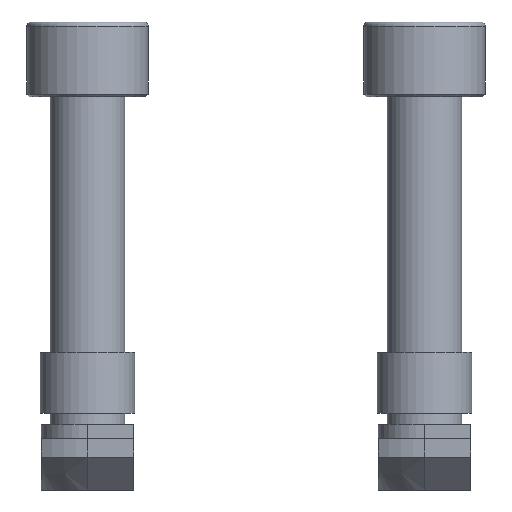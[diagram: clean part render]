
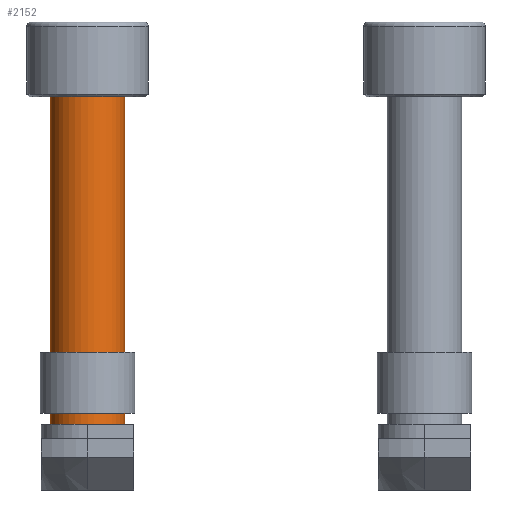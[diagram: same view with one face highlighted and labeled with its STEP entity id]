
A CAD part, front view. The second image highlights one B-rep face of the part: STEP entity #2152.
In plain terms, the highlighted cylindrical face has radius 4 mm (diameter 8 mm), a partial arc.
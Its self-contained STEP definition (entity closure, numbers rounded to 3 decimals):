
#1 = ORIENTED_EDGE ( 'NONE', *, *, #1392, .F. ) ;
#69 = DIRECTION ( 'NONE',  ( 0., 0., 1. ) ) ;
#79 = DIRECTION ( 'NONE',  ( 1., 0., 0. ) ) ;
#145 = AXIS2_PLACEMENT_3D ( 'NONE', #313, #765, #2418 ) ;
#156 = VECTOR ( 'NONE', #358, 1000. ) ;
#313 = CARTESIAN_POINT ( 'NONE',  ( 0., 0., -35. ) ) ;
#358 = DIRECTION ( 'NONE',  ( 0., 0., 1. ) ) ;
#478 = LINE ( 'NONE', #709, #1537 ) ;
#508 = EDGE_CURVE ( 'NONE', #1842, #2864, #478, .T. ) ;
#709 = CARTESIAN_POINT ( 'NONE',  ( 4., 0., -40. ) ) ;
#765 = DIRECTION ( 'NONE',  ( 0., 0., -1. ) ) ;
#796 = FACE_OUTER_BOUND ( 'NONE', #3065, .T. ) ;
#1135 = EDGE_CURVE ( 'NONE', #1842, #2459, #2513, .T. ) ;
#1195 = AXIS2_PLACEMENT_3D ( 'NONE', #2647, #2411, #1698 ) ;
#1257 = CARTESIAN_POINT ( 'NONE',  ( 0., 0., -40. ) ) ;
#1276 = AXIS2_PLACEMENT_3D ( 'NONE', #1257, #69, #79 ) ;
#1308 = ORIENTED_EDGE ( 'NONE', *, *, #1135, .F. ) ;
#1342 = ORIENTED_EDGE ( 'NONE', *, *, #508, .T. ) ;
#1392 = EDGE_CURVE ( 'NONE', #2459, #2084, #1411, .T. ) ;
#1411 = LINE ( 'NONE', #2109, #156 ) ;
#1477 = EDGE_CURVE ( 'NONE', #2084, #2864, #2298, .T. ) ;
#1537 = VECTOR ( 'NONE', #2359, 1000. ) ;
#1698 = DIRECTION ( 'NONE',  ( 1., 0., 0. ) ) ;
#1731 = ORIENTED_EDGE ( 'NONE', *, *, #1477, .F. ) ;
#1810 = CARTESIAN_POINT ( 'NONE',  ( 4., 0., -35. ) ) ;
#1842 = VERTEX_POINT ( 'NONE', #1810 ) ;
#2084 = VERTEX_POINT ( 'NONE', #2139 ) ;
#2109 = CARTESIAN_POINT ( 'NONE',  ( -4., 0., -40. ) ) ;
#2139 = CARTESIAN_POINT ( 'NONE',  ( -4., 0., 0. ) ) ;
#2152 = ADVANCED_FACE ( 'NONE', ( #796 ), #2452, .T. ) ;
#2298 = CIRCLE ( 'NONE', #1195, 4. ) ;
#2359 = DIRECTION ( 'NONE',  ( 0., 0., 1. ) ) ;
#2411 = DIRECTION ( 'NONE',  ( 0., 0., 1. ) ) ;
#2418 = DIRECTION ( 'NONE',  ( -1., 0., 0. ) ) ;
#2452 = CYLINDRICAL_SURFACE ( 'NONE', #1276, 4. ) ;
#2459 = VERTEX_POINT ( 'NONE', #2569 ) ;
#2513 = CIRCLE ( 'NONE', #145, 4. ) ;
#2569 = CARTESIAN_POINT ( 'NONE',  ( -4., 0., -35. ) ) ;
#2647 = CARTESIAN_POINT ( 'NONE',  ( 0., 0., 0. ) ) ;
#2864 = VERTEX_POINT ( 'NONE', #2897 ) ;
#2897 = CARTESIAN_POINT ( 'NONE',  ( 4., 0., 0. ) ) ;
#3065 = EDGE_LOOP ( 'NONE', ( #1, #1308, #1342, #1731 ) ) ;
